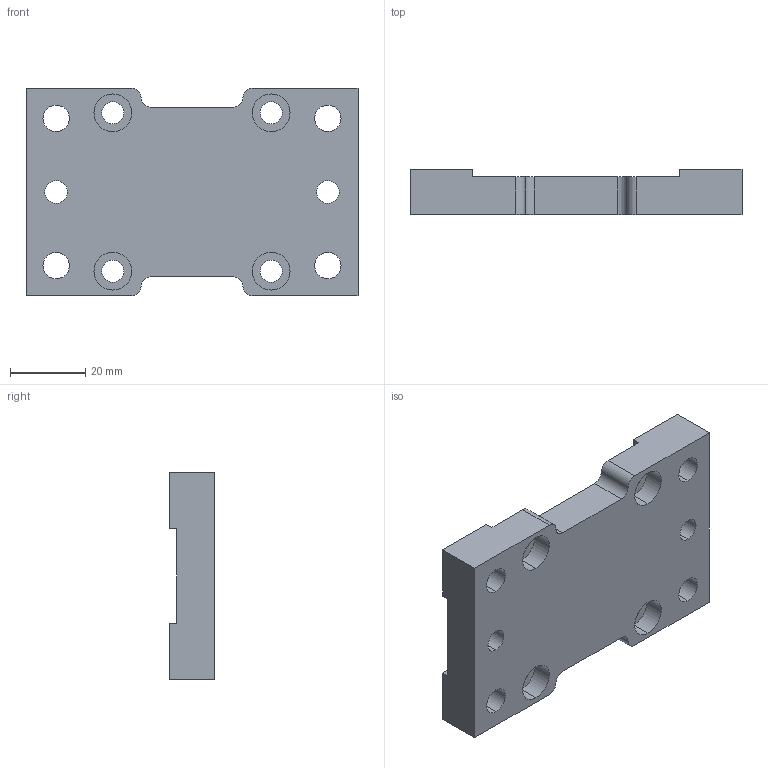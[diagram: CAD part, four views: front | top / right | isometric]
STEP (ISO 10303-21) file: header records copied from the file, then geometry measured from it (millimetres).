
FILE_DESCRIPTION (( 'STEP AP203' ), '1' );
FILE_NAME ('T40J.step', '2017-02-15T12:26:13', ( '' ), ( '' ), 'SwSTEP 2.0', 'SolidWorks 2012', '' );
FILE_SCHEMA (( 'CONFIG_CONTROL_DESIGN' ));
Length unit declared in the file: millimetre
Products named in the file (1): T40J
Bounding box: 88 x 12 x 55 mm (x, y, z)
Volume: 41633.2 mm3; surface area: 14754.4 mm2
Topology: 1 solids, 1 shells, 74 faces, 192 edges, 128 vertices
Faces by surface type: cylinder 44, plane 30
Entity records: 2421 total; most frequent: DIRECTION 430, CARTESIAN_POINT 395, ORIENTED_EDGE 384, EDGE_CURVE 192, AXIS2_PLACEMENT_3D 163, VERTEX_POINT 128, VECTOR 104, LINE 104
